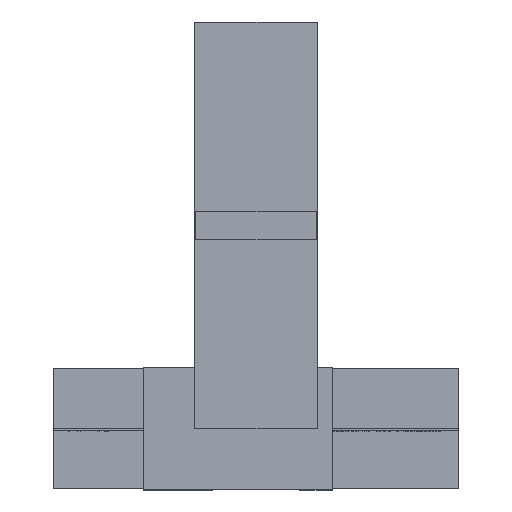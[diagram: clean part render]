
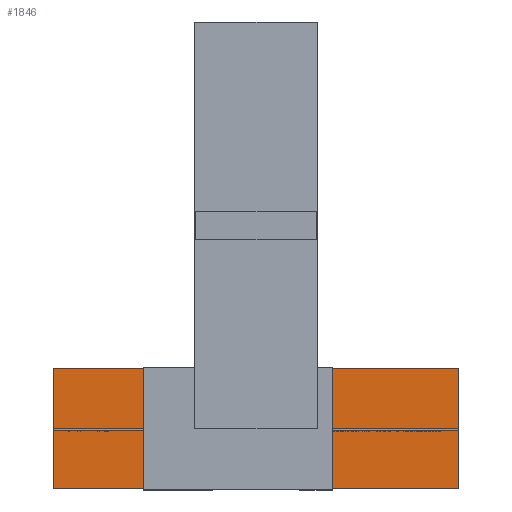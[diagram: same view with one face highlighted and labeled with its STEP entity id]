
A CAD part, top view. The second image highlights one B-rep face of the part: STEP entity #1846.
In plain terms, the highlighted planar face has unit normal (0, 0, 1).
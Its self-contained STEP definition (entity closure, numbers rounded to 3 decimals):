
#1846 = ADVANCED_FACE( '', ( #4836 ), #4837, .T. );
#4836 = FACE_OUTER_BOUND( '', #8118, .T. );
#4837 = PLANE( '', #8119 );
#8118 = EDGE_LOOP( '', ( #21359, #21360, #21361, #21362 ) );
#8119 = AXIS2_PLACEMENT_3D( '', #21363, #21364, #21365 );
#21359 = ORIENTED_EDGE( '', *, *, #25146, .T. );
#21360 = ORIENTED_EDGE( '', *, *, #25148, .T. );
#21361 = ORIENTED_EDGE( '', *, *, #25149, .T. );
#21362 = ORIENTED_EDGE( '', *, *, #25150, .T. );
#21363 = CARTESIAN_POINT( '', ( -99.5, -29.5, 4. ) );
#21364 = DIRECTION( '', ( 0., 0., 1. ) );
#21365 = DIRECTION( '', ( 1., 0., 0. ) );
#25146 = EDGE_CURVE( '', #31413, #31411, #31414, .T. );
#25148 = EDGE_CURVE( '', #31411, #31416, #31417, .T. );
#25149 = EDGE_CURVE( '', #31416, #31418, #31419, .T. );
#25150 = EDGE_CURVE( '', #31418, #31413, #31420, .T. );
#31411 = VERTEX_POINT( '', #43952 );
#31413 = VERTEX_POINT( '', #43955 );
#31414 = LINE( '', #43956, #43957 );
#31416 = VERTEX_POINT( '', #43960 );
#31417 = LINE( '', #43961, #43962 );
#31418 = VERTEX_POINT( '', #43963 );
#31419 = LINE( '', #43964, #43965 );
#31420 = LINE( '', #43966, #43967 );
#43952 = CARTESIAN_POINT( '', ( -99.5, -29.5, 4. ) );
#43955 = CARTESIAN_POINT( '', ( -99.5, 29.5, 4. ) );
#43956 = CARTESIAN_POINT( '', ( -99.5, 29.5, 4. ) );
#43957 = VECTOR( '', #48165, 1000. );
#43960 = CARTESIAN_POINT( '', ( 99.5, -29.5, 4. ) );
#43961 = CARTESIAN_POINT( '', ( -99.5, -29.5, 4. ) );
#43962 = VECTOR( '', #48167, 1000. );
#43963 = CARTESIAN_POINT( '', ( 99.5, 29.5, 4. ) );
#43964 = CARTESIAN_POINT( '', ( 99.5, -29.5, 4. ) );
#43965 = VECTOR( '', #48168, 1000. );
#43966 = CARTESIAN_POINT( '', ( 99.5, 29.5, 4. ) );
#43967 = VECTOR( '', #48169, 1000. );
#48165 = DIRECTION( '', ( 0., -1., 0. ) );
#48167 = DIRECTION( '', ( 1., 0., 0. ) );
#48168 = DIRECTION( '', ( 0., 1., 0. ) );
#48169 = DIRECTION( '', ( -1., 0., 0. ) );
